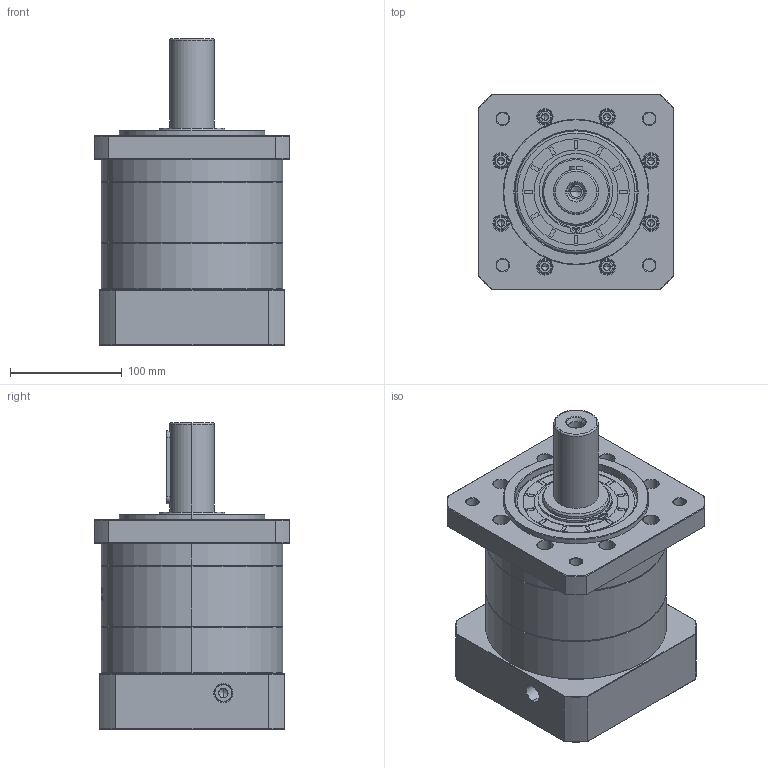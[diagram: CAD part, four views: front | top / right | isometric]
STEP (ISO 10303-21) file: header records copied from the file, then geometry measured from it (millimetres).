
FILE_DESCRIPTION (( 'STEP AP214' ), '1' );
FILE_NAME ('ZF160-D40-L1-32-150-185-M10.step', '2023-03-21T04:28:29', ( '' ), ( '' ), 'SwSTEP 2.0', 'SolidWorks 2016', '' );
FILE_SCHEMA (( 'AUTOMOTIVE_DESIGN' ));
Length unit declared in the file: millimetre
Products named in the file (1): ZF160-D40-L1-32-150-185-M10
Bounding box: 175 x 175 x 274.2 mm (x, y, z)
Volume: 4042234.6 mm3; surface area: 328413 mm2
Topology: 6 solids, 6 shells, 1636 faces, 4255 edges, 2723 vertices
Faces by surface type: plane 644, cylinder 426, cone 326, bspline 218, torus 22
Entity records: 93057 total; most frequent: CARTESIAN_POINT 37249, ORIENTED_EDGE 8450, DIRECTION 7147, EDGE_CURVE 4225, VERTEX_POINT 2723, AXIS2_PLACEMENT_3D 2477, VECTOR 2193, LINE 2193
